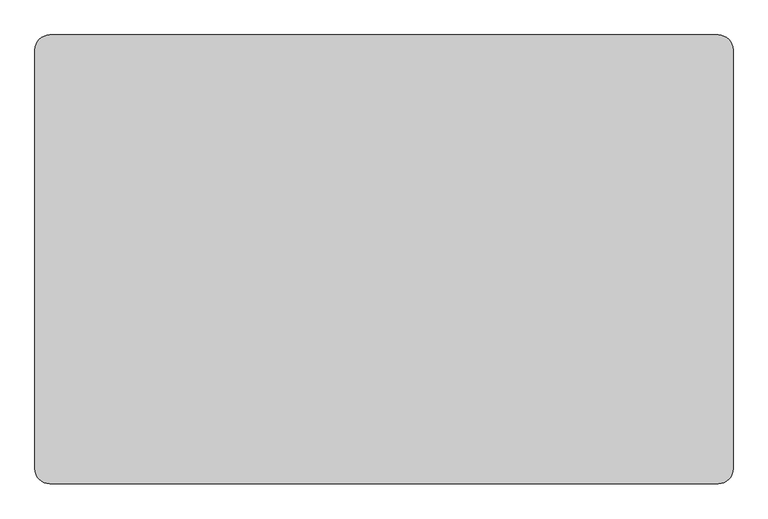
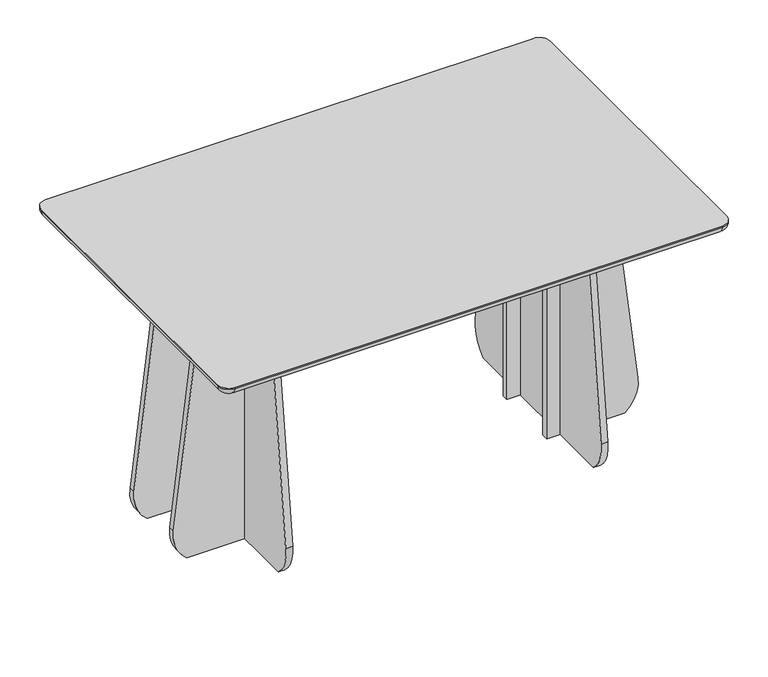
"""IFC4 building model written with IfcOpenShell, lengths in millimetres: furniture geometry, Lundbergs Möbler - Funghi Largo - Table - Rectangular - 140x90 - H73 : Lundbergs Möbler - Funghi Largo - Table - Rectangular - 140x90 - H73."""

from ifc_helpers import new_model, si_unit, point, frame, frame_2d, origin, place, context, project, spatial, polyline, circle_curve, ellipse_curve, trimmed, segment, composite_curve, outline, extrude, source, transform, mapped, element, save
from ifc_brep_helpers import plane_surface, cylinder_surface, revolved_surface, advanced_brep


def furniture_4cfedfe6(model_context):
    return source(origin(), model_context, "Body", "SolidModel", [
        advanced_brep(
        [(-680.0, 420.0, 706.0), (-700.0, 420.0, 726.0), (-670.0, 450.0, 726.0), (-670.0, 430.0, 706.0), (-680.0, -420.0, 706.0), (-700.0, -420.0, 726.0), (-670.0, -430.0, 706.0), (-670.0, -450.0, 726.0), (670.0, -430.0, 706.0), (670.0, -450.0, 726.0), (680.0, -420.0, 706.0), (700.0, -420.0, 726.0), (680.0, 420.0, 706.0), (700.0, 420.0, 726.0), (670.0, 430.0, 706.0), (670.0, 450.0, 726.0), (670.0, 450.0, 730.0), (-670.0, 450.0, 730.0), (-700.0, 420.0, 730.0), (-700.0, -420.0, 730.0), (-670.0, -450.0, 730.0), (670.0, -450.0, 730.0), (700.0, -420.0, 730.0), (700.0, 420.0, 730.0)],
        [
            (0, 1, circle_curve(frame((-680.0, 420.0, 726.0), z_axis=(0.0, 1.0, 0.0), x_axis=(1.0, 0.0, 0.0)), 20.0)),
            (1, 2, circle_curve(frame((-670.0, 420.0, 726.0), z_axis=(0.0, 0.0, -1.0), x_axis=(0.0, 1.0, 0.0)), 30.0)),
            (2, 3, circle_curve(frame((-670.0, 430.0, 726.0), z_axis=(-1.0, 0.0, 0.0), x_axis=(0.0, -1.0, 0.0)), 20.0)),
            (3, 0, circle_curve(frame((-670.0, 420.0, 706.0), z_axis=(0.0, 0.0, 1.0), x_axis=(0.0, 1.0, 0.0)), 10.0)),
            (0, 4),
            (4, 5, circle_curve(frame((-680.0, -420.0, 726.0), z_axis=(0.0, 1.0, 0.0), x_axis=(1.0, 0.0, 0.0)), 20.0)),
            (5, 1),
            (4, 6, circle_curve(frame((-670.0, -420.0, 706.0), z_axis=(0.0, 0.0, 1.0), x_axis=(-1.0, 0.0, 0.0)), 10.0)),
            (6, 7, circle_curve(frame((-670.0, -430.0, 726.0), z_axis=(-1.0, 0.0, 0.0), x_axis=(0.0, 1.0, 0.0)), 20.0)),
            (7, 5, circle_curve(frame((-670.0, -420.0, 726.0), z_axis=(0.0, 0.0, -1.0), x_axis=(-1.0, 0.0, 0.0)), 30.0)),
            (6, 8),
            (8, 9, circle_curve(frame((670.0, -430.0, 726.0), z_axis=(-1.0, 0.0, 0.0), x_axis=(0.0, 1.0, 0.0)), 20.0)),
            (9, 7),
            (8, 10, circle_curve(frame((670.0, -420.0, 706.0), z_axis=(0.0, 0.0, 1.0), x_axis=(0.0, -1.0, 0.0)), 10.0)),
            (10, 11, circle_curve(frame((680.0, -420.0, 726.0), z_axis=(0.0, -1.0, 0.0), x_axis=(-1.0, 0.0, 0.0)), 20.0)),
            (11, 9, circle_curve(frame((670.0, -420.0, 726.0), z_axis=(0.0, 0.0, -1.0), x_axis=(0.0, -1.0, 0.0)), 30.0)),
            (10, 12),
            (12, 13, circle_curve(frame((680.0, 420.0, 726.0), z_axis=(0.0, -1.0, 0.0), x_axis=(-1.0, 0.0, 0.0)), 20.0)),
            (13, 11),
            (12, 14, circle_curve(frame((670.0, 420.0, 706.0), z_axis=(0.0, 0.0, 1.0), x_axis=(1.0, 0.0, 0.0)), 10.0)),
            (14, 15, circle_curve(frame((670.0, 430.0, 726.0), z_axis=(1.0, 0.0, 0.0), x_axis=(0.0, -1.0, 0.0)), 20.0)),
            (15, 13, circle_curve(frame((670.0, 420.0, 726.0), z_axis=(0.0, 0.0, -1.0), x_axis=(1.0, 0.0, 0.0)), 30.0)),
            (2, 15),
            (14, 3),
            (16, 17),
            (17, 18, circle_curve(frame((-670.0, 420.0, 730.0), z_axis=(0.0, 0.0, 1.0), x_axis=(0.0, 1.0, 0.0)), 30.0)),
            (18, 19),
            (19, 20, circle_curve(frame((-670.0, -420.0, 730.0), z_axis=(0.0, 0.0, 1.0), x_axis=(0.0, 1.0, 0.0)), 30.0)),
            (20, 21),
            (21, 22, circle_curve(frame((670.0, -420.0, 730.0), z_axis=(0.0, 0.0, 1.0), x_axis=(0.0, 1.0, 0.0)), 30.0)),
            (22, 23),
            (23, 16, circle_curve(frame((670.0, 420.0, 730.0), z_axis=(0.0, 0.0, 1.0), x_axis=(0.0, 1.0, 0.0)), 30.0)),
            (16, 15),
            (2, 17),
            (1, 18),
            (5, 19),
            (7, 20),
            (9, 21),
            (11, 22),
            (13, 23),
        ],
        [
            revolved_surface(trimmed(ellipse_curve(frame((-670.0, 430.0, 726.0), z_axis=(1.0, 0.0, 0.0), x_axis=(0.0, -1.0, 0.0)), 20.0, 20.0), [point((-670.0, 430.0, 706.0))], [point((-670.0, 450.0, 726.0))], True, "CARTESIAN"), (-670.0, 420.0, 0.0), (0.0, 0.0, 1.0)),
            cylinder_surface(frame((-680.0, 420.0, 726.0), z_axis=(0.0, -1.0, 0.0), x_axis=(1.0, 0.0, 0.0)), 20.0),
            revolved_surface(trimmed(ellipse_curve(frame((-680.0, -420.0, 726.0), z_axis=(0.0, 1.0, 0.0), x_axis=(1.0, 0.0, 0.0)), 20.0, 20.0), [point((-680.0, -420.0, 706.0))], [point((-700.0, -420.0, 726.0))], True, "CARTESIAN"), (-670.0, -420.0, 0.0), (0.0, 0.0, 1.0)),
            cylinder_surface(frame((-670.0, -430.0, 726.0), z_axis=(1.0, 0.0, 0.0), x_axis=(0.0, 1.0, 0.0)), 20.0),
            revolved_surface(trimmed(ellipse_curve(frame((670.0, -430.0, 726.0), z_axis=(-1.0, 0.0, 0.0), x_axis=(0.0, 1.0, 0.0)), 20.0, 20.0), [point((670.0, -430.0, 706.0))], [point((670.0, -450.0, 726.0))], True, "CARTESIAN"), (670.0, -420.0, 0.0), (0.0, 0.0, 1.0)),
            cylinder_surface(frame((680.0, -420.0, 726.0), z_axis=(0.0, 1.0, 0.0), x_axis=(-1.0, 0.0, 0.0)), 20.0),
            revolved_surface(trimmed(ellipse_curve(frame((680.0, 420.0, 726.0), z_axis=(0.0, -1.0, 0.0), x_axis=(-1.0, 0.0, 0.0)), 20.0, 20.0), [point((680.0, 420.0, 706.0))], [point((700.0, 420.0, 726.0))], True, "CARTESIAN"), (670.0, 420.0, 0.0), (0.0, 0.0, 1.0)),
            cylinder_surface(frame((670.0, 430.0, 726.0), z_axis=(-1.0, 0.0, 0.0), x_axis=(0.0, -1.0, 0.0)), 20.0),
            plane_surface(frame((-670.0, 450.0, 730.0), z_axis=(0.0, 0.0, 1.0), x_axis=(-1.0, 0.0, 0.0))),
            plane_surface(frame((-670.0, 450.0, 706.0), z_axis=(0.0, 0.0, -1.0), x_axis=(1.0, 0.0, 0.0))),
            plane_surface(frame((670.0, 450.0, 730.0), z_axis=(0.0, 1.0, 0.0), x_axis=(0.0, 0.0, -1.0))),
            cylinder_surface(frame((-670.0, 420.0, 706.0), z_axis=(0.0, 0.0, 1.0), x_axis=(0.0, 1.0, 0.0)), 30.0),
            plane_surface(frame((-700.0, 420.0, 730.0), z_axis=(-1.0, 0.0, 0.0), x_axis=(0.0, 0.0, -1.0))),
            cylinder_surface(frame((-670.0, -420.0, 706.0), z_axis=(0.0, 0.0, 1.0), x_axis=(0.0, 1.0, 0.0)), 30.0),
            plane_surface(frame((-670.0, -450.0, 730.0), z_axis=(0.0, -1.0, 0.0), x_axis=(0.0, 0.0, -1.0))),
            cylinder_surface(frame((670.0, -420.0, 706.0), z_axis=(0.0, 0.0, 1.0), x_axis=(0.0, 1.0, 0.0)), 30.0),
            plane_surface(frame((700.0, -420.0, 730.0), z_axis=(1.0, 0.0, 0.0), x_axis=(0.0, 0.0, -1.0))),
            cylinder_surface(frame((670.0, 420.0, 706.0), z_axis=(0.0, 0.0, 1.0), x_axis=(0.0, 1.0, 0.0)), 30.0),
        ],
        [
            (0, [[1, 2, 3, 4]]),
            (1, [[-1, 5, 6, 7]]),
            (2, [[-6, 8, 9, 10]]),
            (3, [[-9, 11, 12, 13]]),
            (4, [[-12, 14, 15, 16]]),
            (5, [[-15, 17, 18, 19]]),
            (6, [[-18, 20, 21, 22]]),
            (7, [[-3, 23, -21, 24]]),
            (8, [[25, 26, 27, 28, 29, 30, 31, 32]]),
            (9, [[-4, -24, -20, -17, -14, -11, -8, -5]]),
            (10, [[-25, 33, -23, 34]]),
            (11, [[-26, -34, -2, 35]]),
            (12, [[-27, -35, -7, 36]]),
            (13, [[-28, -36, -10, 37]]),
            (14, [[-29, -37, -13, 38]]),
            (15, [[-30, -38, -16, 39]]),
            (16, [[-31, -39, -19, 40]]),
            (17, [[-32, -40, -22, -33]]),
        ],
    ),
        extrude(outline(composite_curve([segment(polyline([(481.25, 180.0), (517.25, 180.0)]), True, "CONTINUOUS"), segment(trimmed(circle_curve(frame_2d((517.25, 178.0)), 2.0), [point((517.25, 180.0))], [point((519.25, 178.0))], False, "CARTESIAN"), True, "CONTINUOUS"), segment(polyline([(519.25, 178.0), (519.25, -178.0)]), True, "CONTINUOUS"), segment(trimmed(circle_curve(frame_2d((517.25, -178.0)), 2.0), [point((519.25, -178.0))], [point((517.25, -180.0))], False, "CARTESIAN"), True, "CONTINUOUS"), segment(polyline([(517.25, -180.0), (481.25, -180.0)]), True, "CONTINUOUS"), segment(trimmed(circle_curve(frame_2d((481.25, -178.0)), 2.0), [point((481.25, -180.0))], [point((479.25, -178.0))], False, "CARTESIAN"), True, "CONTINUOUS"), segment(polyline([(479.25, -178.0), (479.25, 178.0)]), True, "CONTINUOUS"), segment(trimmed(circle_curve(frame_2d((481.25, 178.0)), 2.0), [point((479.25, 178.0))], [point((481.25, 180.0))], False, "CARTESIAN"), True, "CONTINUOUS")], self_intersect=False)), frame((0.0, 0.0, 686.0), z_axis=(0.0, 0.0, 1.0), x_axis=(1.0, 0.0, 0.0)), (0.0, 0.0, 1.0), 20.0),
        extrude(outline(composite_curve([segment(polyline([(361.25, 180.0), (451.25, 180.0)]), True, "CONTINUOUS"), segment(trimmed(circle_curve(frame_2d((451.25, 176.5)), 3.5), [point((451.25, 180.0))], [point((454.75, 176.5))], False, "CARTESIAN"), True, "CONTINUOUS"), segment(polyline([(454.75, 176.5), (454.75, 143.5)]), True, "CONTINUOUS"), segment(trimmed(circle_curve(frame_2d((451.25, 143.5)), 3.5), [point((454.75, 143.5))], [point((451.25, 140.0))], False, "CARTESIAN"), True, "CONTINUOUS"), segment(polyline([(451.25, 140.0), (361.25, 140.0)]), True, "CONTINUOUS"), segment(trimmed(circle_curve(frame_2d((361.25, 143.5)), 3.5), [point((361.25, 140.0))], [point((357.75, 143.5))], False, "CARTESIAN"), True, "CONTINUOUS"), segment(polyline([(357.75, 143.5), (357.75, 176.5)]), True, "CONTINUOUS"), segment(trimmed(circle_curve(frame_2d((361.25, 176.5)), 3.5), [point((357.75, 176.5))], [point((361.25, 180.0))], False, "CARTESIAN"), True, "CONTINUOUS")], self_intersect=False)), frame((0.0, 0.0, 686.0), z_axis=(0.0, 0.0, 1.0), x_axis=(1.0, 0.0, 0.0)), (0.0, 0.0, 1.0), 20.0),
        extrude(outline(composite_curve([segment(polyline([(361.25, -140.0), (451.25, -140.0)]), True, "CONTINUOUS"), segment(trimmed(circle_curve(frame_2d((451.25, -143.5)), 3.5), [point((451.25, -140.0))], [point((454.75, -143.5))], False, "CARTESIAN"), True, "CONTINUOUS"), segment(polyline([(454.75, -143.5), (454.75, -176.5)]), True, "CONTINUOUS"), segment(trimmed(circle_curve(frame_2d((451.25, -176.5)), 3.5), [point((454.75, -176.5))], [point((451.25, -180.0))], False, "CARTESIAN"), True, "CONTINUOUS"), segment(polyline([(451.25, -180.0), (361.25, -180.0)]), True, "CONTINUOUS"), segment(trimmed(circle_curve(frame_2d((361.25, -176.5)), 3.5), [point((361.25, -180.0))], [point((357.75, -176.5))], False, "CARTESIAN"), True, "CONTINUOUS"), segment(polyline([(357.75, -176.5), (357.75, -143.5)]), True, "CONTINUOUS"), segment(trimmed(circle_curve(frame_2d((361.25, -143.5)), 3.5), [point((357.75, -143.5))], [point((361.25, -140.0))], False, "CARTESIAN"), True, "CONTINUOUS")], self_intersect=False)), frame((0.0, 0.0, 686.0), z_axis=(0.0, 0.0, 1.0), x_axis=(1.0, 0.0, 0.0)), (0.0, 0.0, 1.0), 20.0),
        extrude(outline(composite_curve([segment(trimmed(circle_curve(frame_2d((200.0, 78.0350603)), 100.0), [point((299.2807726, 90.0070355))], [point((262.5342255, 0.0))], False, "CARTESIAN"), True, "CONTINUOUS"), segment(polyline([(262.5342255, 0.0), (-262.5342255, 0.0)]), True, "CONTINUOUS"), segment(trimmed(circle_curve(frame_2d((-200.0, 78.0350603)), 100.0), [point((-262.5342255, 0.0))], [point((-299.2807726, 90.0070355))], False, "CARTESIAN"), True, "CONTINUOUS"), segment(polyline([(-299.2807726, 90.0070355), (-224.9955121, 706.0372169), (224.9955121, 706.0372169), (299.2807726, 90.0070355)]), True, "CONTINUOUS")], self_intersect=False)), frame((424.25, 0.0, 0.0), z_axis=(1.0, 0.0, 0.0), x_axis=(0.0, 1.0, 0.0)), (0.0, 0.0, 1.0), 18.5),
        extrude(outline(composite_curve([segment(polyline([(90.0070355, 638.5307726), (706.0372169, 564.2455121), (706.0372169, 387.25), (0.0, 387.25), (0.0, 601.7842255)]), True, "CONTINUOUS"), segment(trimmed(circle_curve(frame_2d((78.0350603, 539.25)), 100.0), [point((0.0, 601.7842255))], [point((90.0070355, 638.5307726))], False, "CARTESIAN"), True, "CONTINUOUS")], self_intersect=False)), frame((0.0, 85.5, 0.0), z_axis=(0.0, 1.0, 0.0), x_axis=(0.0, 0.0, 1.0)), (0.0, 0.0, 1.0), 18.0),
        extrude(outline(composite_curve([segment(polyline([(90.0070355, 638.5307726), (706.0372169, 564.2455121), (706.0372169, 387.25), (0.0, 387.25), (0.0, 601.7842255)]), True, "CONTINUOUS"), segment(trimmed(circle_curve(frame_2d((78.0350603, 539.25)), 100.0), [point((0.0, 601.7842255))], [point((90.0070355, 638.5307726))], False, "CARTESIAN"), True, "CONTINUOUS")], self_intersect=False)), frame((0.0, -103.5, 0.0), z_axis=(0.0, 1.0, 0.0), x_axis=(0.0, 0.0, 1.0)), (0.0, 0.0, 1.0), 18.0),
        extrude(outline(composite_curve([segment(trimmed(circle_curve(frame_2d((-481.25, 178.0)), 2.0), [point((-481.25, 180.0))], [point((-479.25, 178.0))], False, "CARTESIAN"), True, "CONTINUOUS"), segment(polyline([(-479.25, 178.0), (-479.25, -178.0)]), True, "CONTINUOUS"), segment(trimmed(circle_curve(frame_2d((-481.25, -178.0)), 2.0), [point((-479.25, -178.0))], [point((-481.25, -180.0))], False, "CARTESIAN"), True, "CONTINUOUS"), segment(polyline([(-481.25, -180.0), (-517.25, -180.0)]), True, "CONTINUOUS"), segment(trimmed(circle_curve(frame_2d((-517.25, -178.0)), 2.0), [point((-517.25, -180.0))], [point((-519.25, -178.0))], False, "CARTESIAN"), True, "CONTINUOUS"), segment(polyline([(-519.25, -178.0), (-519.25, 178.0)]), True, "CONTINUOUS"), segment(trimmed(circle_curve(frame_2d((-517.25, 178.0)), 2.0), [point((-519.25, 178.0))], [point((-517.25, 180.0))], False, "CARTESIAN"), True, "CONTINUOUS"), segment(polyline([(-517.25, 180.0), (-481.25, 180.0)]), True, "CONTINUOUS")], self_intersect=False)), frame((0.0, 0.0, 686.0), z_axis=(0.0, 0.0, 1.0), x_axis=(1.0, 0.0, 0.0)), (0.0, 0.0, 1.0), 20.0),
        extrude(outline(composite_curve([segment(trimmed(circle_curve(frame_2d((-361.25, 176.5)), 3.5), [point((-361.25, 180.0))], [point((-357.75, 176.5))], False, "CARTESIAN"), True, "CONTINUOUS"), segment(polyline([(-357.75, 176.5), (-357.75, 143.5)]), True, "CONTINUOUS"), segment(trimmed(circle_curve(frame_2d((-361.25, 143.5)), 3.5), [point((-357.75, 143.5))], [point((-361.25, 140.0))], False, "CARTESIAN"), True, "CONTINUOUS"), segment(polyline([(-361.25, 140.0), (-451.25, 140.0)]), True, "CONTINUOUS"), segment(trimmed(circle_curve(frame_2d((-451.25, 143.5)), 3.5), [point((-451.25, 140.0))], [point((-454.75, 143.5))], False, "CARTESIAN"), True, "CONTINUOUS"), segment(polyline([(-454.75, 143.5), (-454.75, 176.5)]), True, "CONTINUOUS"), segment(trimmed(circle_curve(frame_2d((-451.25, 176.5)), 3.5), [point((-454.75, 176.5))], [point((-451.25, 180.0))], False, "CARTESIAN"), True, "CONTINUOUS"), segment(polyline([(-451.25, 180.0), (-361.25, 180.0)]), True, "CONTINUOUS")], self_intersect=False)), frame((0.0, 0.0, 686.0), z_axis=(0.0, 0.0, 1.0), x_axis=(1.0, 0.0, 0.0)), (0.0, 0.0, 1.0), 20.0),
        extrude(outline(composite_curve([segment(trimmed(circle_curve(frame_2d((-361.25, -143.5)), 3.5), [point((-361.25, -140.0))], [point((-357.75, -143.5))], False, "CARTESIAN"), True, "CONTINUOUS"), segment(polyline([(-357.75, -143.5), (-357.75, -176.5)]), True, "CONTINUOUS"), segment(trimmed(circle_curve(frame_2d((-361.25, -176.5)), 3.5), [point((-357.75, -176.5))], [point((-361.25, -180.0))], False, "CARTESIAN"), True, "CONTINUOUS"), segment(polyline([(-361.25, -180.0), (-451.25, -180.0)]), True, "CONTINUOUS"), segment(trimmed(circle_curve(frame_2d((-451.25, -176.5)), 3.5), [point((-451.25, -180.0))], [point((-454.75, -176.5))], False, "CARTESIAN"), True, "CONTINUOUS"), segment(polyline([(-454.75, -176.5), (-454.75, -143.5)]), True, "CONTINUOUS"), segment(trimmed(circle_curve(frame_2d((-451.25, -143.5)), 3.5), [point((-454.75, -143.5))], [point((-451.25, -140.0))], False, "CARTESIAN"), True, "CONTINUOUS"), segment(polyline([(-451.25, -140.0), (-361.25, -140.0)]), True, "CONTINUOUS")], self_intersect=False)), frame((0.0, 0.0, 686.0), z_axis=(0.0, 0.0, 1.0), x_axis=(1.0, 0.0, 0.0)), (0.0, 0.0, 1.0), 20.0),
        extrude(outline(composite_curve([segment(trimmed(circle_curve(frame_2d((200.0, 78.0350603)), 100.0), [point((299.2807726, 90.0070355))], [point((262.5342255, 0.0))], False, "CARTESIAN"), True, "CONTINUOUS"), segment(polyline([(262.5342255, 0.0), (-262.5342255, 0.0)]), True, "CONTINUOUS"), segment(trimmed(circle_curve(frame_2d((-200.0, 78.0350603)), 100.0), [point((-262.5342255, 0.0))], [point((-299.2807726, 90.0070355))], False, "CARTESIAN"), True, "CONTINUOUS"), segment(polyline([(-299.2807726, 90.0070355), (-224.9955121, 706.0372169), (224.9955121, 706.0372169), (299.2807726, 90.0070355)]), True, "CONTINUOUS")], self_intersect=False)), frame((-442.75, 0.0, 0.0), z_axis=(1.0, 0.0, 0.0), x_axis=(0.0, 1.0, 0.0)), (0.0, 0.0, 1.0), 18.5),
        extrude(outline(composite_curve([segment(trimmed(circle_curve(frame_2d((78.0350603, -539.25)), 100.0), [point((90.0070355, -638.5307726))], [point((0.0, -601.7842255))], False, "CARTESIAN"), True, "CONTINUOUS"), segment(polyline([(0.0, -601.7842255), (0.0, -387.25), (706.0372169, -387.25), (706.0372169, -564.2455121), (90.0070355, -638.5307726)]), True, "CONTINUOUS")], self_intersect=False)), frame((0.0, 85.5, 0.0), z_axis=(0.0, 1.0, 0.0), x_axis=(0.0, 0.0, 1.0)), (0.0, 0.0, 1.0), 18.0),
        extrude(outline(composite_curve([segment(trimmed(circle_curve(frame_2d((78.0350603, -539.25)), 100.0), [point((90.0070355, -638.5307726))], [point((0.0, -601.7842255))], False, "CARTESIAN"), True, "CONTINUOUS"), segment(polyline([(0.0, -601.7842255), (0.0, -387.25), (706.0372169, -387.25), (706.0372169, -564.2455121), (90.0070355, -638.5307726)]), True, "CONTINUOUS")], self_intersect=False)), frame((0.0, -103.5, 0.0), z_axis=(0.0, 1.0, 0.0), x_axis=(0.0, 0.0, 1.0)), (0.0, 0.0, 1.0), 18.0),
    ])


if __name__ == "__main__":
    model = new_model("IFC4")
    model_context = context("Model", 3, world=origin())
    ifc_project = project(units=[si_unit("LENGTHUNIT", "METRE", prefix="MILLI")], contexts=[model_context])
    site = spatial("IfcSite", under=ifc_project)
    building = spatial("IfcBuilding", under=site)
    placement = place(None, origin())
    furniture_shape = furniture_4cfedfe6(model_context)
    element("IfcFurniture", 1, ObjectType="Lundbergs Möbler - Funghi Largo - Table - Rectangular - 140x90 - H73 : Lundbergs Möbler - Funghi Largo - Table - Rectangular - 140x90 - H73", at=placement, inside=building, context=model_context, shape_type="MappedRepresentation", body=[
        mapped(furniture_shape, transform((0.0, 0.0, 0.0), x_axis=(1.0, 0.0, 0.0), y_axis=(0.0, 1.0, 0.0), z_axis=(0.0, 0.0, 1.0))),
    ])
    save(model, "model.ifc")
